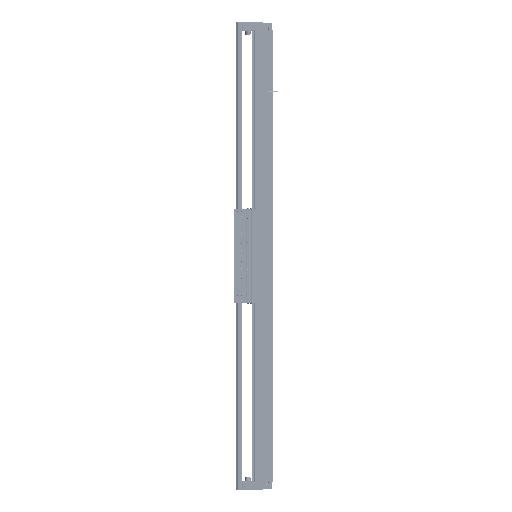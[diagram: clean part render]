
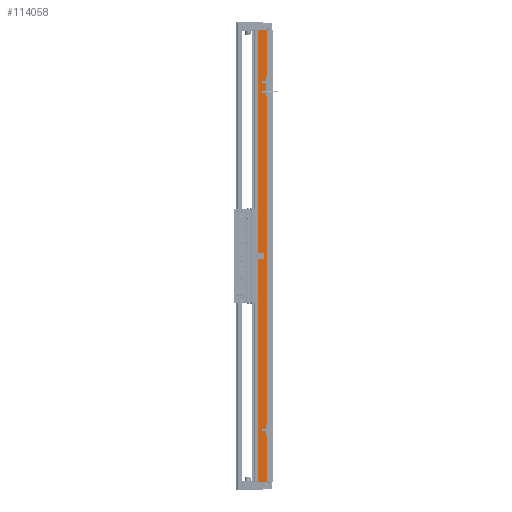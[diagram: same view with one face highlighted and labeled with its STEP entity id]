
A CAD part, left-side view. The second image highlights one B-rep face of the part: STEP entity #114058.
In plain terms, the highlighted planar face has unit normal (-1, 0, 0).
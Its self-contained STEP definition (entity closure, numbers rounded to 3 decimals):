
#4147 = CARTESIAN_POINT ( 'NONE',  ( -97.5, 36.95, 600. ) ) ;
#5653 = DIRECTION ( 'NONE',  ( 0., 0., -1. ) ) ;
#10914 = VECTOR ( 'NONE', #90263, 1000. ) ;
#12659 = EDGE_CURVE ( 'NONE', #39768, #125518, #71315, .T. ) ;
#13177 = CARTESIAN_POINT ( 'NONE',  ( -97.5, 36.95, -600. ) ) ;
#14467 = DIRECTION ( 'NONE',  ( 1., 0., 0. ) ) ;
#17439 = ORIENTED_EDGE ( 'NONE', *, *, #138914, .T. ) ;
#20012 = EDGE_LOOP ( 'NONE', ( #17439, #81824, #82730, #137155 ) ) ;
#25458 = PLANE ( 'NONE',  #61169 ) ;
#34492 = VERTEX_POINT ( 'NONE', #46638 ) ;
#37455 = VERTEX_POINT ( 'NONE', #91918 ) ;
#38685 = CARTESIAN_POINT ( 'NONE',  ( -97.5, 14.45, 600. ) ) ;
#39768 = VERTEX_POINT ( 'NONE', #135069 ) ;
#45495 = LINE ( 'NONE', #13177, #10914 ) ;
#46638 = CARTESIAN_POINT ( 'NONE',  ( -97.5, 14.45, -600. ) ) ;
#49257 = VECTOR ( 'NONE', #118968, 1000. ) ;
#61169 = AXIS2_PLACEMENT_3D ( 'NONE', #4147, #14467, #93716 ) ;
#65838 = EDGE_CURVE ( 'NONE', #37455, #34492, #107692, .T. ) ;
#71315 = LINE ( 'NONE', #141658, #49257 ) ;
#81824 = ORIENTED_EDGE ( 'NONE', *, *, #65838, .F. ) ;
#82730 = ORIENTED_EDGE ( 'NONE', *, *, #114472, .F. ) ;
#83500 = CARTESIAN_POINT ( 'NONE',  ( -97.5, 36.95, -600. ) ) ;
#83968 = CARTESIAN_POINT ( 'NONE',  ( -97.5, 36.95, 600. ) ) ;
#90263 = DIRECTION ( 'NONE',  ( 0., -1., 0. ) ) ;
#91918 = CARTESIAN_POINT ( 'NONE',  ( -97.5, 14.45, 600. ) ) ;
#93716 = DIRECTION ( 'NONE',  ( 0., 1., 0. ) ) ;
#105277 = DIRECTION ( 'NONE',  ( 0., -1., 0. ) ) ;
#107692 = LINE ( 'NONE', #38685, #128835 ) ;
#114058 = ADVANCED_FACE ( 'NONE', ( #125996 ), #25458, .F. ) ;
#114472 = EDGE_CURVE ( 'NONE', #39768, #37455, #139685, .T. ) ;
#118968 = DIRECTION ( 'NONE',  ( 0., 0., -1. ) ) ;
#125518 = VERTEX_POINT ( 'NONE', #83500 ) ;
#125996 = FACE_OUTER_BOUND ( 'NONE', #20012, .T. ) ;
#128835 = VECTOR ( 'NONE', #5653, 1000. ) ;
#129212 = VECTOR ( 'NONE', #105277, 1000. ) ;
#135069 = CARTESIAN_POINT ( 'NONE',  ( -97.5, 36.95, 600. ) ) ;
#137155 = ORIENTED_EDGE ( 'NONE', *, *, #12659, .T. ) ;
#138914 = EDGE_CURVE ( 'NONE', #125518, #34492, #45495, .T. ) ;
#139685 = LINE ( 'NONE', #83968, #129212 ) ;
#141658 = CARTESIAN_POINT ( 'NONE',  ( -97.5, 36.95, 600. ) ) ;
